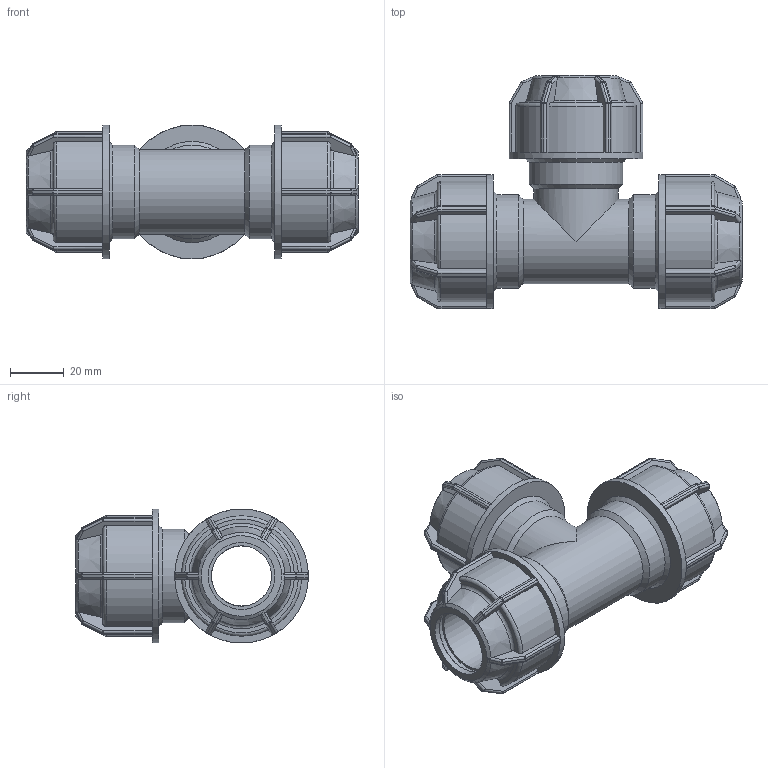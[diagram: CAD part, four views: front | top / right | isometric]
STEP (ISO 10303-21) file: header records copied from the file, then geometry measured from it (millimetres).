
FILE_DESCRIPTION(/* description */ ('PLASSON L.14 TEE (SILVER) 25-25-25'),/* implementation_level */ '2;1');
FILE_NAME(/* name */ 'C:\Dropbox\KIMPROJECTS-Inventor\99-16-3568-Processing\Silver+MF ISRAEL\140400\140400025.ipt.stp',/* time_stamp */ '2018-04-09T13:03:37+03:00',/* author */ ('KIM'),/* organization */ (''),/* preprocessor_version */ 'ST-DEVELOPER v15.6',/* originating_system */ 'Autodesk Inventor 2015',/* authorisation */ '');
FILE_SCHEMA (('AUTOMOTIVE_DESIGN { 1 0 10303 214 3 1 1 }'));
Length unit declared in the file: millimetre
Products named in the file (1): 140400025
Bounding box: 124 x 87 x 50 mm (x, y, z)
Volume: 119181.4 mm3; surface area: 42681.1 mm2
Topology: 1 solids, 1 shells, 607 faces, 1475 edges, 848 vertices
Faces by surface type: plane 288, cylinder 178, sphere 72, torus 42, cone 27
Full cylindrical faces by diameter (mm): 22.5 x2, 25 x6, 31.5 x2, 35 x3, 50 x3
Entity records: 17636 total; most frequent: CARTESIAN_POINT 4528, DIRECTION 2760, ORIENTED_EDGE 2708, EDGE_CURVE 1354, AXIS2_PLACEMENT_3D 1110, VERTEX_POINT 796, EDGE_LOOP 646, FACE_OUTER_BOUND 601
